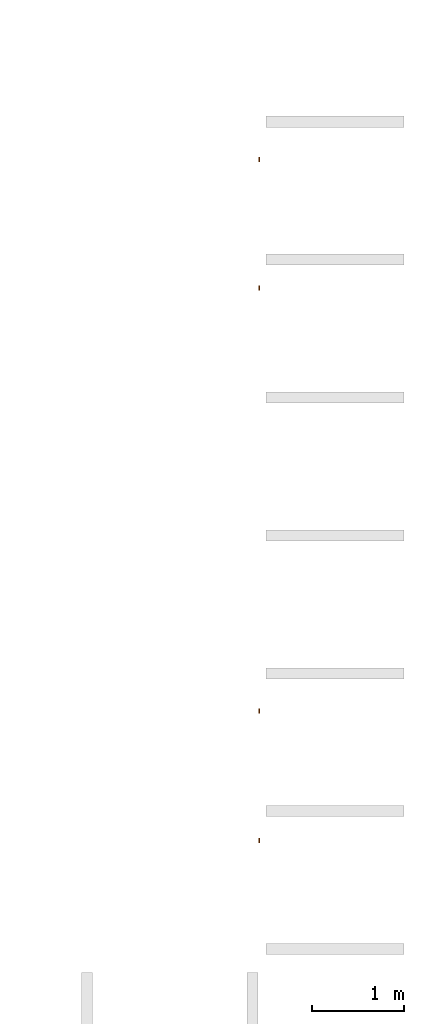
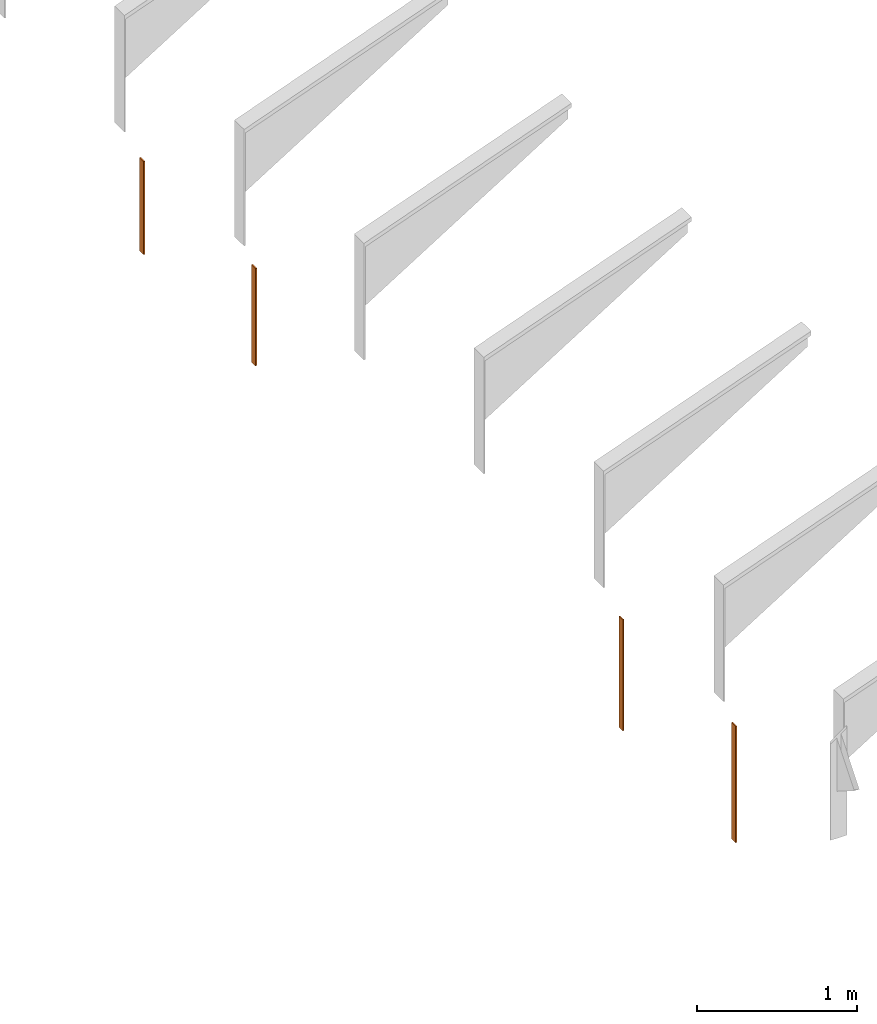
# One storey, part 2 of 3: 4 proxies.
"""IFC2X3 building model written with IfcOpenShell, lengths in millimetres."""

from ifc_helpers import new_model, entity, si_unit, converted_unit, derived_unit, direction, frame, frame_2d, origin, place, context, subcontext, project, spatial, rectangle, extrude, source, transform, mapped, material, type_object, type_shapes, element, save


model = new_model("IFC2X3")

# Units and contexts
model_context = context("Model", 3, precision=0.01, world=origin(), true_north=direction((0.7716245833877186, 0.6360782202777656)))
body_context = subcontext(model_context, "Body", "Model", "MODEL_VIEW")
ifc_project = project(units=[si_unit("LENGTHUNIT", "METRE", prefix="MILLI"), si_unit("AREAUNIT", "SQUARE_METRE"), converted_unit("PLANEANGLEUNIT", "DEGREE", entity("IfcPlaneAngleMeasure", 0.017453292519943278), si_unit("PLANEANGLEUNIT", "RADIAN"), dimensions=[0, 0, 0, 0, 0, 0, 0]), derived_unit("THERMALTRANSMITTANCEUNIT", [(si_unit("MASSUNIT", "GRAM", prefix="KILO"), 1), (si_unit("THERMODYNAMICTEMPERATUREUNIT", "KELVIN"), -1), (si_unit("TIMEUNIT", "SECOND"), -3)])], contexts=[model_context])

# Site, building, storey
site_placement = place(None, origin())
site = spatial("IfcSite", under=ifc_project, at=site_placement, Name="Default", CompositionType="ELEMENT")
building_placement = place(site_placement, origin())
building = spatial("IfcBuilding", under=site, at=building_placement, CompositionType="ELEMENT")
storey_placement = place(building_placement, frame((0.0, 0.0, 42000.0)))
storey = spatial("IfcBuildingStorey", under=building, at=storey_placement, Name="PLAN 04 (TAK)", CompositionType="ELEMENT", Elevation=42000.0)

# Proxies
ifc_material = material(Name="Aluminum")
building_element_proxy_type_1 = type_object("IfcBuildingElementProxyType", Name="Fasade profil, VER:Fasade profil 100x50", PredefinedType="NOTDEFINED", material=ifc_material)
shared_shape_1 = source(origin(), body_context, "Body", "SweptSolid", [
    extrude(rectangle(XDim=50.000000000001, YDim=10.000000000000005, at=frame_2d((-2.1316282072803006e-14, 0.0), x_axis=(1.0, 0.0))), frame((25.0, -5.0, 0.0), z_axis=(0.0, 0.0, 1.0), x_axis=(-1.0, 0.0, 0.0)), (0.0, 0.0, 1.0), 889.5104475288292),
])
type_shapes(building_element_proxy_type_1, [shared_shape_1])
proxy_1_placement = place(storey_placement, frame((277990.257347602, 54470.255550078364, -5410.0), z_axis=(0.0, 0.0, 1.0), x_axis=(0.0, 1.0, 0.0)))
element("IfcBuildingElementProxy", 1, at=proxy_1_placement, inside=storey, type_object=building_element_proxy_type_1, material=ifc_material, Name="Fasade profil, VER:Fasade profil 100x50", ObjectType="Fasade profil, VER:Fasade profil 100x50", context=body_context, shape_type="MappedRepresentation", body=[
    mapped(shared_shape_1, transform((0.0, 0.0, 0.0), scale=1.0)),
])
building_element_proxy_type_2 = type_object("IfcBuildingElementProxyType", Name="Fasade profil, VER:Fasade profil 100x50", PredefinedType="NOTDEFINED", material=ifc_material)
shared_shape_2 = source(origin(), body_context, "Body", "SweptSolid", [
    extrude(rectangle(XDim=50.000000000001, YDim=10.000000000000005, at=frame_2d((-2.1316282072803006e-14, 0.0), x_axis=(1.0, 0.0))), frame((25.0, -5.0, 0.0), z_axis=(0.0, 0.0, 1.0), x_axis=(-1.0, 0.0, 0.0)), (0.0, 0.0, 1.0), 846.358446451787),
])
type_shapes(building_element_proxy_type_2, [shared_shape_2])
proxy_2_placement = place(storey_placement, frame((277990.257347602, 55880.255550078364, -5410.0), z_axis=(0.0, 0.0, 1.0), x_axis=(0.0, 1.0, 0.0)))
element("IfcBuildingElementProxy", 2, at=proxy_2_placement, inside=storey, type_object=building_element_proxy_type_2, material=ifc_material, Name="Fasade profil, VER:Fasade profil 100x50", ObjectType="Fasade profil, VER:Fasade profil 100x50", context=body_context, shape_type="MappedRepresentation", body=[
    mapped(shared_shape_2, transform((0.0, 0.0, 0.0), scale=1.0)),
])
building_element_proxy_type_3 = type_object("IfcBuildingElementProxyType", Name="Fasade profil, VER:Fasade profil 100x50", PredefinedType="NOTDEFINED", material=ifc_material)
shared_shape_3 = source(origin(), body_context, "Body", "SweptSolid", [
    extrude(rectangle(XDim=50.000000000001, YDim=10.000000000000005, at=frame_2d((-2.1316282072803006e-14, 0.0), x_axis=(1.0, 0.0))), frame((25.0, -5.0, 0.0), z_axis=(0.0, 0.0, 1.0), x_axis=(-1.0, 0.0, 0.0)), (0.0, 0.0, 1.0), 743.1623871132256),
])
type_shapes(building_element_proxy_type_3, [shared_shape_3])
proxy_3_placement = place(storey_placement, frame((277990.257347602, 60479.47030222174, -5410.0), z_axis=(0.0, 0.0, 1.0), x_axis=(0.0, 1.0, 0.0)))
element("IfcBuildingElementProxy", 3, at=proxy_3_placement, inside=storey, type_object=building_element_proxy_type_3, material=ifc_material, Name="Fasade profil, VER:Fasade profil 100x50", ObjectType="Fasade profil, VER:Fasade profil 100x50", context=body_context, shape_type="MappedRepresentation", body=[
    mapped(shared_shape_3, transform((0.0, 0.0, 0.0), scale=1.0)),
])
building_element_proxy_type_4 = type_object("IfcBuildingElementProxyType", Name="Fasade profil, VER:Fasade profil 100x50", PredefinedType="NOTDEFINED", material=ifc_material)
shared_shape_4 = source(origin(), body_context, "Body", "SweptSolid", [
    extrude(rectangle(XDim=50.000000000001, YDim=10.000000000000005, at=frame_2d((-2.1316282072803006e-14, 0.0), x_axis=(1.0, 0.0))), frame((25.0, -5.0, 0.0), z_axis=(0.0, 0.0, 1.0), x_axis=(-1.0, 0.0, 0.0)), (0.0, 0.0, 1.0), 711.6857961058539),
])
type_shapes(building_element_proxy_type_4, [shared_shape_4])
proxy_4_placement = place(storey_placement, frame((277990.257347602, 61880.25555007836, -5410.0), z_axis=(0.0, 0.0, 1.0), x_axis=(0.0, 1.0, 0.0)))
element("IfcBuildingElementProxy", 4, at=proxy_4_placement, inside=storey, type_object=building_element_proxy_type_4, material=ifc_material, Name="Fasade profil, VER:Fasade profil 100x50", ObjectType="Fasade profil, VER:Fasade profil 100x50", context=body_context, shape_type="MappedRepresentation", body=[
    mapped(shared_shape_4, transform((0.0, 0.0, 0.0), scale=1.0)),
])

save(model, "model.ifc")
